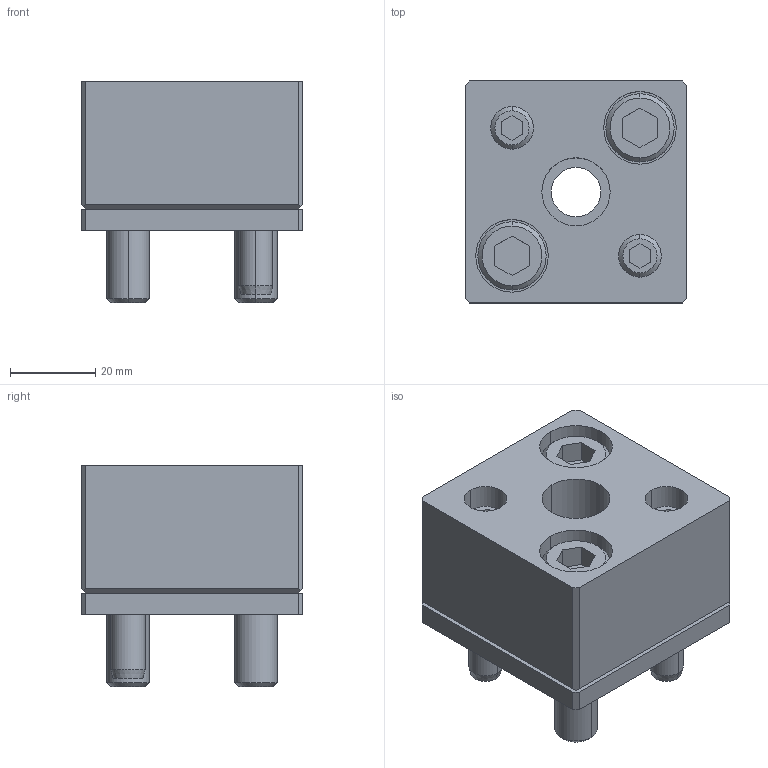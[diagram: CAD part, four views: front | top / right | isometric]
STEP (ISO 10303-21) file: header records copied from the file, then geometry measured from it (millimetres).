
FILE_DESCRIPTION(/* description */ (''),/* implementation_level */ '2;1');
FILE_NAME(/* name */ '3d_sr-ad16_02893_r00.stp',/* time_stamp */ '2011-01-10T14:10:01+09:00',/* author */ ('MISUMI'),/* organization */ (''),/* preprocessor_version */ 'ST-DEVELOPER v11',/* originating_system */ 'UGS - NX 5.0',/* authorisation */ '');
FILE_SCHEMA (('CONFIG_CONTROL_DESIGN'));
Length unit declared in the file: millimetre
Products named in the file (1): 3d_sr-ad16_02893_r00
Bounding box: 52 x 52 x 52 mm (x, y, z)
Volume: 89706.6 mm3; surface area: 29208.6 mm2
Topology: 8 solids, 8 shells, 155 faces, 346 edges, 222 vertices
Faces by surface type: plane 77, cylinder 52, cone 26
Entity records: 4440 total; most frequent: DIRECTION 784, CARTESIAN_POINT 766, ORIENTED_EDGE 692, EDGE_CURVE 346, AXIS2_PLACEMENT_3D 286, VERTEX_POINT 222, LINE 212, VECTOR 212
